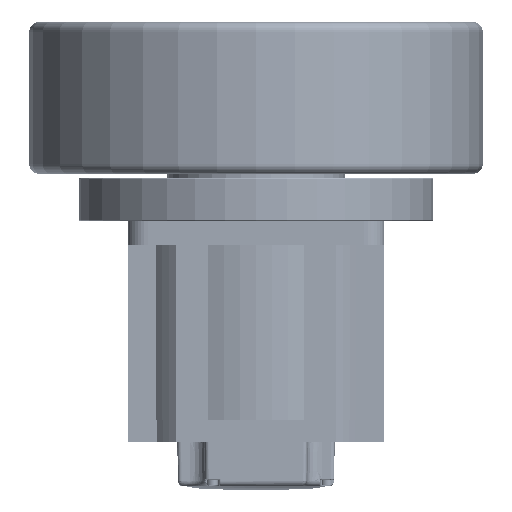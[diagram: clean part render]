
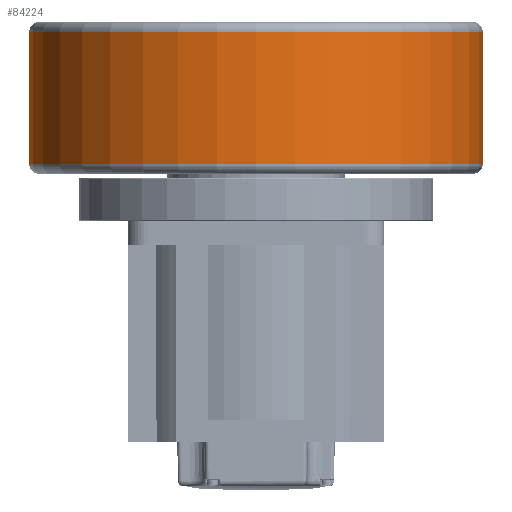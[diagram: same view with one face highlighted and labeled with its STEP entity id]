
A CAD part, left-side view. The second image highlights one B-rep face of the part: STEP entity #84224.
In plain terms, the highlighted cylindrical face has radius 115 mm (diameter 230 mm), a partial arc.
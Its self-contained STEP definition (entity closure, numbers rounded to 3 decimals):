
#82403=CARTESIAN_POINT('',(5.,0.,0.));
#82404=DIRECTION('',(-1.,0.,0.));
#82405=DIRECTION('',(0.,0.,1.));
#82406=AXIS2_PLACEMENT_3D('',#82403,#82404,#82405);
#82413=DIRECTION('',(1.,0.,0.));
#82414=VECTOR('',#82413,67.);
#82415=CARTESIAN_POINT('',(5.,0.,115.));
#82416=LINE('',#82415,#82414);
#82422=CARTESIAN_POINT('',(72.,0.,0.));
#82423=DIRECTION('',(1.,0.,0.));
#82424=DIRECTION('',(0.,0.,-1.));
#82425=AXIS2_PLACEMENT_3D('',#82422,#82423,#82424);
#82457=DIRECTION('',(1.,0.,0.));
#82458=VECTOR('',#82457,67.);
#82459=CARTESIAN_POINT('',(5.,0.,-115.));
#82460=LINE('',#82459,#82458);
#83561=CARTESIAN_POINT('',(5.,0.,-115.));
#83562=CARTESIAN_POINT('',(72.,0.,-115.));
#83563=VERTEX_POINT('',#83561);
#83564=VERTEX_POINT('',#83562);
#83661=CARTESIAN_POINT('',(72.,0.,115.));
#83662=VERTEX_POINT('',#83661);
#83679=CARTESIAN_POINT('',(5.,0.,115.));
#83680=VERTEX_POINT('',#83679);
#84210=CARTESIAN_POINT('',(0.,0.,0.));
#84211=DIRECTION('',(-1.,0.,0.));
#84212=DIRECTION('',(0.,0.,1.));
#84213=AXIS2_PLACEMENT_3D('',#84210,#84211,#84212);
#84214=CYLINDRICAL_SURFACE('',#84213,115.);
#84216=ORIENTED_EDGE('',*,*,#84215,.T.);
#84218=ORIENTED_EDGE('',*,*,#84217,.F.);
#84219=ORIENTED_EDGE('',*,*,#84200,.T.);
#84221=ORIENTED_EDGE('',*,*,#84220,.T.);
#84222=EDGE_LOOP('',(#84216,#84218,#84219,#84221));
#84223=FACE_OUTER_BOUND('',#84222,.F.);
#84224=ADVANCED_FACE('',(#84223),#84214,.T.);
#82407=CIRCLE('',#82406,115.);
#82426=CIRCLE('',#82425,115.);
#84200=EDGE_CURVE('',#83680,#83563,#82407,.T.);
#84215=EDGE_CURVE('',#83564,#83662,#82426,.T.);
#84217=EDGE_CURVE('',#83680,#83662,#82416,.T.);
#84220=EDGE_CURVE('',#83563,#83564,#82460,.T.);
